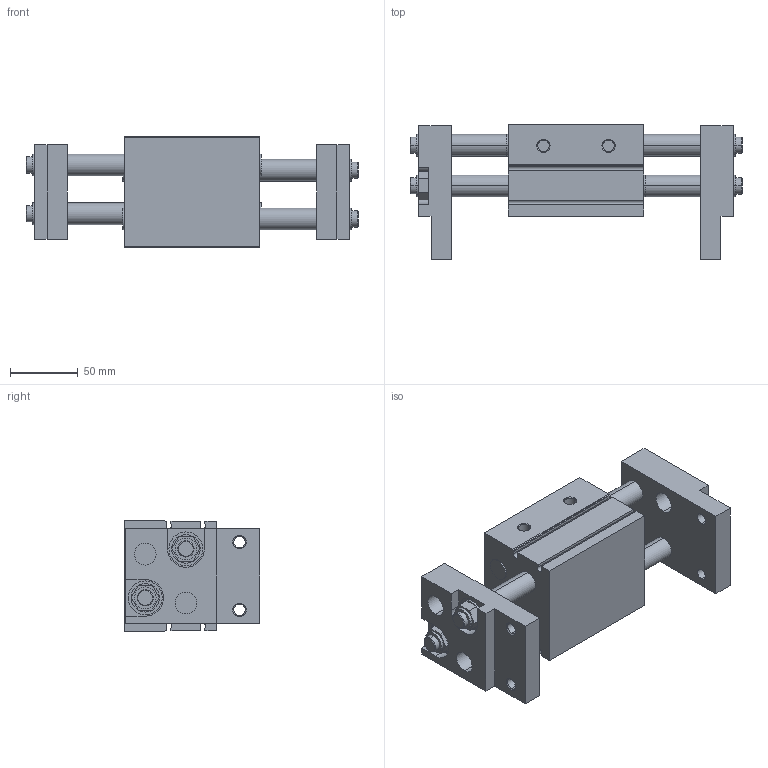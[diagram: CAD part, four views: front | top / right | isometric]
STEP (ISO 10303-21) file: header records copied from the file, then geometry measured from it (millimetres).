
FILE_DESCRIPTION (( 'STEP AP214' ), '1' );
FILE_NAME ('SFT32X60S_0_.STEP', '2026-03-22T04:01:15', ( '' ), ( '' ), 'SwSTEP 2.0', 'SolidWorks 2024', '' );
FILE_SCHEMA (( 'AUTOMOTIVE_DESIGN' ));
Length unit declared in the file: millimetre
Products named in the file (5): SFT32X60S(0)_dummy_2; SFT32X60S_body_3; SFT32X60S_0_(2); SFT32X60S_0_; SFT32X60S_rod_3
Assembly tree (4 placements, depth 3):
  SFT32X60S(0)_dummy_2
  SFT32X60S_0_
    SFT32X60S_0_(2)
      SFT32X60S_body_3
      SFT32X60S_rod_3  x2
Bounding box: 245 x 100 x 82 mm (x, y, z)
Volume: 835835 mm3; surface area: 147256.5 mm2
Topology: 3 solids, 3 shells, 252 faces, 589 edges, 382 vertices
Faces by surface type: plane 115, cylinder 105, cone 32
Entity records: 5062 total; most frequent: DIRECTION 921, CARTESIAN_POINT 835, ORIENTED_EDGE 798, EDGE_CURVE 399, AXIS2_PLACEMENT_3D 344, VERTEX_POINT 258, VECTOR 233, LINE 233
